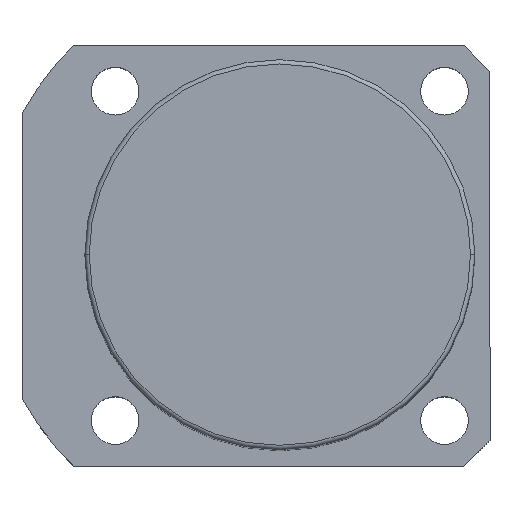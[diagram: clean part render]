
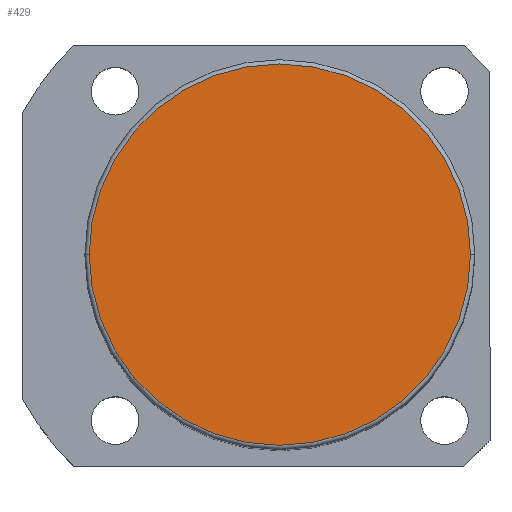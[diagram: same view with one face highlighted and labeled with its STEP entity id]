
A CAD part, top view. The second image highlights one B-rep face of the part: STEP entity #429.
In plain terms, the highlighted planar face has unit normal (0, 0, 1).
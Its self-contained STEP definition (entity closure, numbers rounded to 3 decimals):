
#33 = CARTESIAN_POINT ( 'NONE',  ( -44., 0., 176.5 ) ) ;
#139 = DIRECTION ( 'NONE',  ( 1., 0., 0. ) ) ;
#140 = AXIS2_PLACEMENT_3D ( 'NONE', #153, #1211, #1509 ) ;
#153 = CARTESIAN_POINT ( 'NONE',  ( 0., 0., 176.5 ) ) ;
#166 = CARTESIAN_POINT ( 'NONE',  ( 0., 0., 176.5 ) ) ;
#429 = ADVANCED_FACE ( 'NONE', ( #1187 ), #895, .T. ) ;
#471 = ORIENTED_EDGE ( 'NONE', *, *, #675, .T. ) ;
#540 = DIRECTION ( 'NONE',  ( 1., 0., 0. ) ) ;
#675 = EDGE_CURVE ( 'NONE', #1039, #1526, #1229, .T. ) ;
#703 = ORIENTED_EDGE ( 'NONE', *, *, #1216, .T. ) ;
#709 = AXIS2_PLACEMENT_3D ( 'NONE', #166, #1490, #139 ) ;
#714 = CARTESIAN_POINT ( 'NONE',  ( 0., 0., 176.5 ) ) ;
#861 = CARTESIAN_POINT ( 'NONE',  ( 44., 0., 176.5 ) ) ;
#895 = PLANE ( 'NONE',  #709 ) ;
#900 = CIRCLE ( 'NONE', #140, 44. ) ;
#1039 = VERTEX_POINT ( 'NONE', #861 ) ;
#1155 = DIRECTION ( 'NONE',  ( 0., 0., 1. ) ) ;
#1187 = FACE_OUTER_BOUND ( 'NONE', #1576, .T. ) ;
#1211 = DIRECTION ( 'NONE',  ( 0., 0., 1. ) ) ;
#1216 = EDGE_CURVE ( 'NONE', #1526, #1039, #900, .T. ) ;
#1229 = CIRCLE ( 'NONE', #1236, 44. ) ;
#1236 = AXIS2_PLACEMENT_3D ( 'NONE', #714, #1155, #540 ) ;
#1490 = DIRECTION ( 'NONE',  ( 0., 0., 1. ) ) ;
#1509 = DIRECTION ( 'NONE',  ( 1., 0., 0. ) ) ;
#1526 = VERTEX_POINT ( 'NONE', #33 ) ;
#1576 = EDGE_LOOP ( 'NONE', ( #471, #703 ) ) ;
